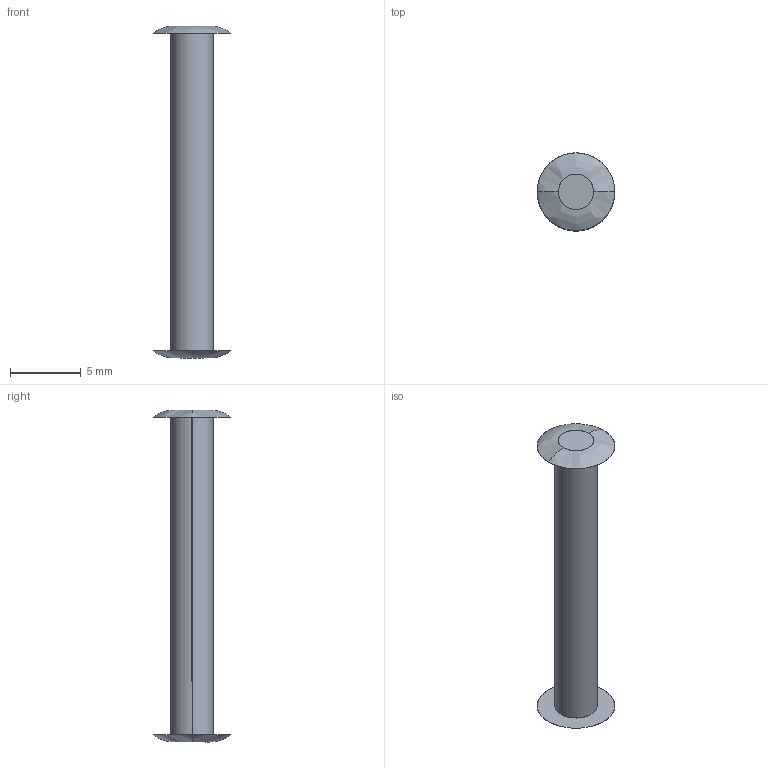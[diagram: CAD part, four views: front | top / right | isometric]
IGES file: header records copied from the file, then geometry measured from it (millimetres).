
Start section: SolidWorks IGES FILE using analytic representation for surfaces
Global section: file name: C:\WINNT\Profiles\cbrechard\Bureau\GE 1061\60.100.03.IGS; native system: SolidWorks 2001Plus by SolidWorks Corporation; preprocessor: Version 5.3; author: CBRECHARD; date: 050124.102349; units: millimetre
Bounding box: 5.5 x 5.5 x 23.5 mm (x, y, z)
Surface area: 296.2 mm2 (no closed solid volume)
Topology: 0 solids, 0 shells, 10 faces, 216 edges, 216 vertices
Faces by surface type: bspline 8, revolution 2
